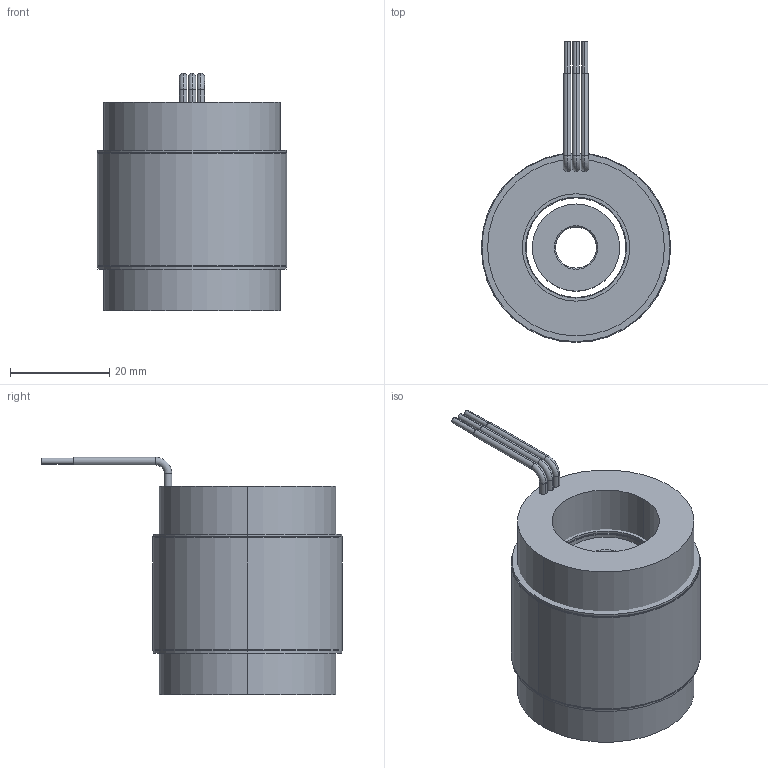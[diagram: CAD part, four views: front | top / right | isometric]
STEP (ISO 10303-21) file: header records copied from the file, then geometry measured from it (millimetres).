
FILE_DESCRIPTION (( 'STEP AP214' ), '1' );
FILE_NAME ('6100250-02.STEP', '2019-11-11T16:38:48', ( '' ), ( '' ), 'SwSTEP 2.0', 'SolidWorks 2016', '' );
FILE_SCHEMA (( 'AUTOMOTIVE_DESIGN' ));
Length unit declared in the file: millimetre
Products named in the file (10): COMP4500511-XX(COIL)_COMP4500511-02(COIL); 4250335-XX_4250335-01; 4500511-XX_4500511-02; 4400021-00; 6100250-02; 4600089-00; 4150139-XX_4150139-01; 4450148-XX_4450148-01
Assembly tree (10 placements, depth 4):
  6100250-02
    4500511-XX_4500511-02
      4450148-XX_4450148-01
        4450148-XX_4450148-01
        4400021-00
        4400021-00
        4600089-00  x2
      COMP4500511-XX(COIL)_COMP4500511-02(COIL)
    4250335-XX_4250335-01
      4150139-XX_4150139-01
Bounding box: 38.1 x 60.45 x 47.75 mm (x, y, z)
Volume: 50364.4 mm3; surface area: 23910.7 mm2
Topology: 7 solids, 7 shells, 76 faces, 152 edges, 96 vertices
Faces by surface type: cylinder 46, plane 20, torus 6, cone 4
Entity records: 2246 total; most frequent: DIRECTION 406, CARTESIAN_POINT 314, ORIENTED_EDGE 280, AXIS2_PLACEMENT_3D 180, EDGE_CURVE 140, CIRCLE 94, EDGE_LOOP 88, VERTEX_POINT 88
